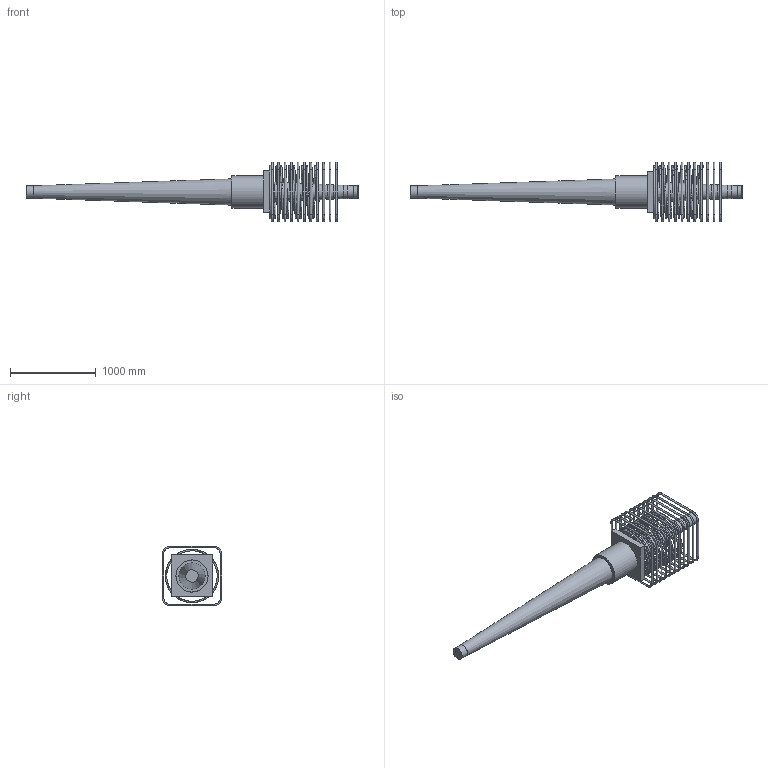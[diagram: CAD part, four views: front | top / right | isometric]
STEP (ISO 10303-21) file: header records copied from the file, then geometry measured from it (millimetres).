
FILE_DESCRIPTION(/* description */ (''),/* implementation_level */ '2;1');
FILE_NAME(/* name */ 'Z:\04 Publications\05 Give-out\BBR\6_3D_Models\BBR VT CONA CMI\BBR VT CONA CMI SP\03706\BBR VT CONA CMI SP 3706_Coupler H Assembly_CS-34,28.stp',/* time_stamp */ '2017-05-09T10:22:34+02:00',/* author */ ('IP'),/* organization */ (''),/* preprocessor_version */ 'ST-DEVELOPER v16.1',/* originating_system */ 'Autodesk Inventor 2016',/* authorisation */ '');
FILE_SCHEMA (('AUTOMOTIVE_DESIGN { 1 0 10303 214 3 1 1 }'));
Products named in the file (1): BBR VT CONA CMI SP 3706_Coupler H Assembly_CS-34,28
Bounding box: 3871 x 695 x 695 mm (x, y, z)
Volume: 196751782.2 mm3; surface area: 6144973.7 mm2
Topology: 13 solids, 13 shells, 823 faces, 2160 edges, 1407 vertices
Faces by surface type: bspline 395, plane 260, cylinder 110, torus 51, cone 7
Full cylindrical faces by diameter (mm): 20 x44, 145 x1, 373 x1, 375 x1
Entity records: 39708 total; most frequent: CARTESIAN_POINT 22028, ORIENTED_EDGE 4112, DIRECTION 2464, EDGE_CURVE 2053, VERTEX_POINT 1405, EDGE_LOOP 999, LINE 916, VECTOR 916
